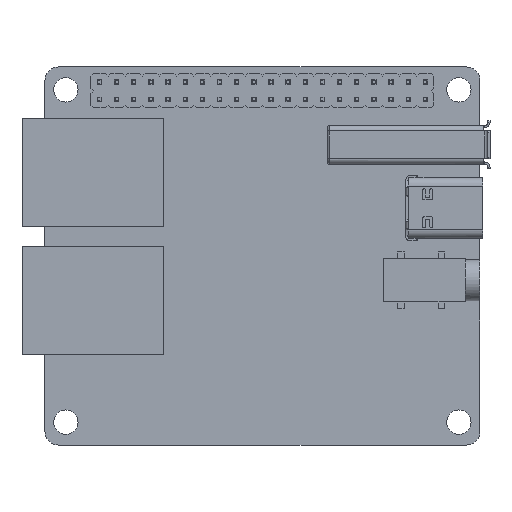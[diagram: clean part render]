
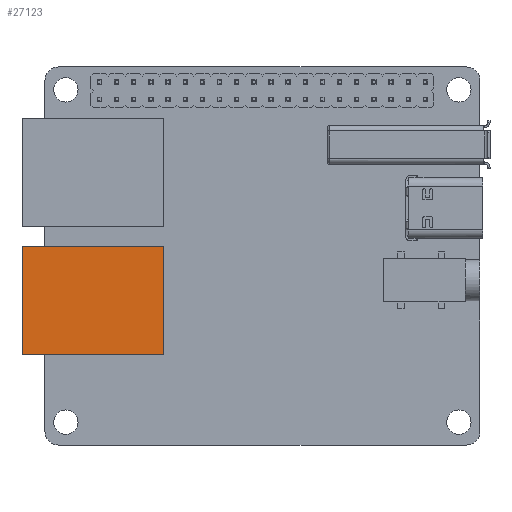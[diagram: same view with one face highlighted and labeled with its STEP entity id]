
A CAD part, top view. The second image highlights one B-rep face of the part: STEP entity #27123.
In plain terms, the highlighted planar face has unit normal (0, 0, 1) as drawn and (0, 1, 0) by its records, which use the part's own axes.
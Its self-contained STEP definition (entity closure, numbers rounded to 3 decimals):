
#26934 = VERTEX_POINT('',#26935);
#26935 = CARTESIAN_POINT('',(-8.,6.65,-10.5));
#26942 = PLANE('',#26943);
#26943 = AXIS2_PLACEMENT_3D('',#26944,#26945,#26946);
#26944 = CARTESIAN_POINT('',(0.,0.,-10.5));
#26945 = DIRECTION('',(0.,0.,1.));
#26946 = DIRECTION('',(1.,0.,-0.));
#26954 = PLANE('',#26955);
#26955 = AXIS2_PLACEMENT_3D('',#26956,#26957,#26958);
#26956 = CARTESIAN_POINT('',(-8.,6.65,-10.5));
#26957 = DIRECTION('',(-1.,0.,0.));
#26958 = DIRECTION('',(0.,-1.,0.));
#26995 = VERTEX_POINT('',#26996);
#26996 = CARTESIAN_POINT('',(8.,6.65,-10.5));
#27010 = PLANE('',#27011);
#27011 = AXIS2_PLACEMENT_3D('',#27012,#27013,#27014);
#27012 = CARTESIAN_POINT('',(8.,-6.65,-10.5));
#27013 = DIRECTION('',(1.,0.,0.));
#27014 = DIRECTION('',(-0.,1.,0.));
#27022 = EDGE_CURVE('',#26934,#26995,#27023,.T.);
#27023 = SURFACE_CURVE('',#27024,(#27028,#27035),.PCURVE_S1.);
#27024 = LINE('',#27025,#27026);
#27025 = CARTESIAN_POINT('',(-8.,6.65,-10.5));
#27026 = VECTOR('',#27027,1.);
#27027 = DIRECTION('',(1.,0.,0.));
#27028 = PCURVE('',#26942,#27029);
#27029 = DEFINITIONAL_REPRESENTATION('',(#27030),#27034);
#27030 = LINE('',#27031,#27032);
#27031 = CARTESIAN_POINT('',(-8.,6.65));
#27032 = VECTOR('',#27033,1.);
#27033 = DIRECTION('',(1.,0.));
#27034 = ( GEOMETRIC_REPRESENTATION_CONTEXT(2) 
PARAMETRIC_REPRESENTATION_CONTEXT() REPRESENTATION_CONTEXT('2D SPACE',''
  ) );
#27035 = PCURVE('',#27036,#27041);
#27036 = PLANE('',#27037);
#27037 = AXIS2_PLACEMENT_3D('',#27038,#27039,#27040);
#27038 = CARTESIAN_POINT('',(8.,6.65,-10.5));
#27039 = DIRECTION('',(0.,1.,0.));
#27040 = DIRECTION('',(-1.,0.,0.));
#27041 = DEFINITIONAL_REPRESENTATION('',(#27042),#27046);
#27042 = LINE('',#27043,#27044);
#27043 = CARTESIAN_POINT('',(16.,0.));
#27044 = VECTOR('',#27045,1.);
#27045 = DIRECTION('',(-1.,0.));
#27046 = ( GEOMETRIC_REPRESENTATION_CONTEXT(2) 
PARAMETRIC_REPRESENTATION_CONTEXT() REPRESENTATION_CONTEXT('2D SPACE',''
  ) );
#27052 = EDGE_CURVE('',#27053,#26934,#27055,.T.);
#27053 = VERTEX_POINT('',#27054);
#27054 = CARTESIAN_POINT('',(-8.,6.65,10.5));
#27055 = SURFACE_CURVE('',#27056,(#27060,#27067),.PCURVE_S1.);
#27056 = LINE('',#27057,#27058);
#27057 = CARTESIAN_POINT('',(-8.,6.65,10.5));
#27058 = VECTOR('',#27059,1.);
#27059 = DIRECTION('',(0.,0.,-1.));
#27060 = PCURVE('',#26954,#27061);
#27061 = DEFINITIONAL_REPRESENTATION('',(#27062),#27066);
#27062 = LINE('',#27063,#27064);
#27063 = CARTESIAN_POINT('',(0.,21.));
#27064 = VECTOR('',#27065,1.);
#27065 = DIRECTION('',(0.,-1.));
#27066 = ( GEOMETRIC_REPRESENTATION_CONTEXT(2) 
PARAMETRIC_REPRESENTATION_CONTEXT() REPRESENTATION_CONTEXT('2D SPACE',''
  ) );
#27067 = PCURVE('',#27036,#27068);
#27068 = DEFINITIONAL_REPRESENTATION('',(#27069),#27073);
#27069 = LINE('',#27070,#27071);
#27070 = CARTESIAN_POINT('',(16.,21.));
#27071 = VECTOR('',#27072,1.);
#27072 = DIRECTION('',(0.,-1.));
#27073 = ( GEOMETRIC_REPRESENTATION_CONTEXT(2) 
PARAMETRIC_REPRESENTATION_CONTEXT() REPRESENTATION_CONTEXT('2D SPACE',''
  ) );
#27091 = PLANE('',#27092);
#27092 = AXIS2_PLACEMENT_3D('',#27093,#27094,#27095);
#27093 = CARTESIAN_POINT('',(0.,0.,10.5));
#27094 = DIRECTION('',(0.,0.,1.));
#27095 = DIRECTION('',(1.,0.,-0.));
#27123 = ADVANCED_FACE('',(#27124),#27036,.T.);
#27124 = FACE_BOUND('',#27125,.F.);
#27125 = EDGE_LOOP('',(#27126,#27127,#27150,#27171));
#27126 = ORIENTED_EDGE('',*,*,#27022,.T.);
#27127 = ORIENTED_EDGE('',*,*,#27128,.F.);
#27128 = EDGE_CURVE('',#27129,#26995,#27131,.T.);
#27129 = VERTEX_POINT('',#27130);
#27130 = CARTESIAN_POINT('',(8.,6.65,10.5));
#27131 = SURFACE_CURVE('',#27132,(#27136,#27143),.PCURVE_S1.);
#27132 = LINE('',#27133,#27134);
#27133 = CARTESIAN_POINT('',(8.,6.65,10.5));
#27134 = VECTOR('',#27135,1.);
#27135 = DIRECTION('',(0.,0.,-1.));
#27136 = PCURVE('',#27036,#27137);
#27137 = DEFINITIONAL_REPRESENTATION('',(#27138),#27142);
#27138 = LINE('',#27139,#27140);
#27139 = CARTESIAN_POINT('',(0.,21.));
#27140 = VECTOR('',#27141,1.);
#27141 = DIRECTION('',(0.,-1.));
#27142 = ( GEOMETRIC_REPRESENTATION_CONTEXT(2) 
PARAMETRIC_REPRESENTATION_CONTEXT() REPRESENTATION_CONTEXT('2D SPACE',''
  ) );
#27143 = PCURVE('',#27010,#27144);
#27144 = DEFINITIONAL_REPRESENTATION('',(#27145),#27149);
#27145 = LINE('',#27146,#27147);
#27146 = CARTESIAN_POINT('',(13.3,21.));
#27147 = VECTOR('',#27148,1.);
#27148 = DIRECTION('',(0.,-1.));
#27149 = ( GEOMETRIC_REPRESENTATION_CONTEXT(2) 
PARAMETRIC_REPRESENTATION_CONTEXT() REPRESENTATION_CONTEXT('2D SPACE',''
  ) );
#27150 = ORIENTED_EDGE('',*,*,#27151,.F.);
#27151 = EDGE_CURVE('',#27053,#27129,#27152,.T.);
#27152 = SURFACE_CURVE('',#27153,(#27157,#27164),.PCURVE_S1.);
#27153 = LINE('',#27154,#27155);
#27154 = CARTESIAN_POINT('',(-8.,6.65,10.5));
#27155 = VECTOR('',#27156,1.);
#27156 = DIRECTION('',(1.,0.,0.));
#27157 = PCURVE('',#27036,#27158);
#27158 = DEFINITIONAL_REPRESENTATION('',(#27159),#27163);
#27159 = LINE('',#27160,#27161);
#27160 = CARTESIAN_POINT('',(16.,21.));
#27161 = VECTOR('',#27162,1.);
#27162 = DIRECTION('',(-1.,0.));
#27163 = ( GEOMETRIC_REPRESENTATION_CONTEXT(2) 
PARAMETRIC_REPRESENTATION_CONTEXT() REPRESENTATION_CONTEXT('2D SPACE',''
  ) );
#27164 = PCURVE('',#27091,#27165);
#27165 = DEFINITIONAL_REPRESENTATION('',(#27166),#27170);
#27166 = LINE('',#27167,#27168);
#27167 = CARTESIAN_POINT('',(-8.,6.65));
#27168 = VECTOR('',#27169,1.);
#27169 = DIRECTION('',(1.,0.));
#27170 = ( GEOMETRIC_REPRESENTATION_CONTEXT(2) 
PARAMETRIC_REPRESENTATION_CONTEXT() REPRESENTATION_CONTEXT('2D SPACE',''
  ) );
#27171 = ORIENTED_EDGE('',*,*,#27052,.T.);
